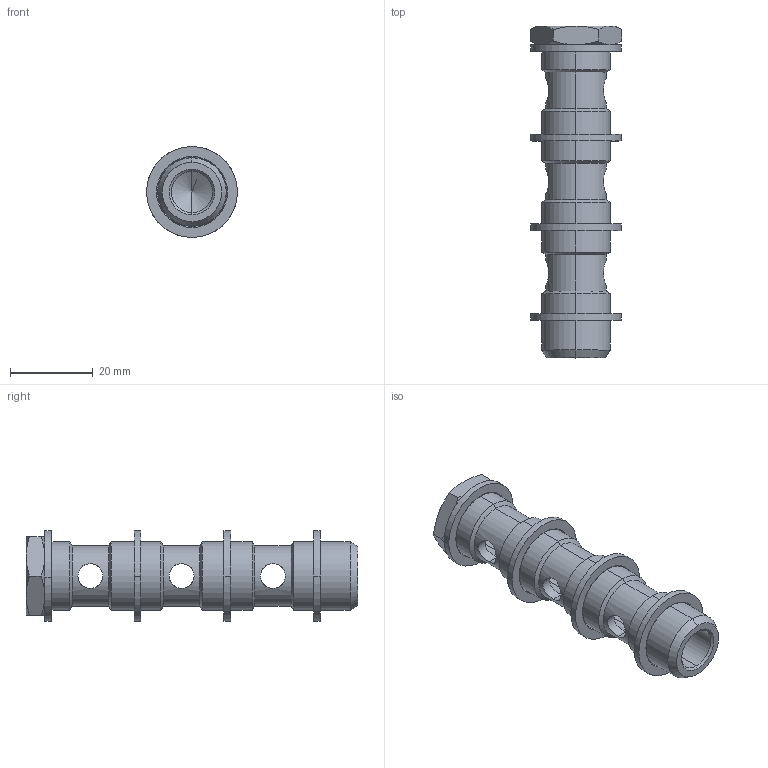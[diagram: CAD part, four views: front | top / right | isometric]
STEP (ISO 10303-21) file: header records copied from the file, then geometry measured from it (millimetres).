
FILE_DESCRIPTION (( 'STEP AP214' ), '1' );
FILE_NAME ('5143000013.step', '2012-10-01T17:06:07', ( '' ), ( '' ), 'SwSTEP 2.0', 'SolidWorks 2012', '' );
FILE_SCHEMA (( 'AUTOMOTIVE_DESIGN' ));
Length unit declared in the file: millimetre
Products named in the file (1): 5143000013
Bounding box: 21.94 x 80 x 21.9 mm (x, y, z)
Volume: 10875.7 mm3; surface area: 9044.7 mm2
Topology: 5 solids, 5 shells, 183 faces, 466 edges, 293 vertices
Faces by surface type: cylinder 72, plane 65, cone 30, torus 16
Entity records: 8541 total; most frequent: CARTESIAN_POINT 1977, DIRECTION 984, ORIENTED_EDGE 928, EDGE_CURVE 464, AXIS2_PLACEMENT_3D 432, VERTEX_POINT 293, CIRCLE 248, EDGE_LOOP 205
